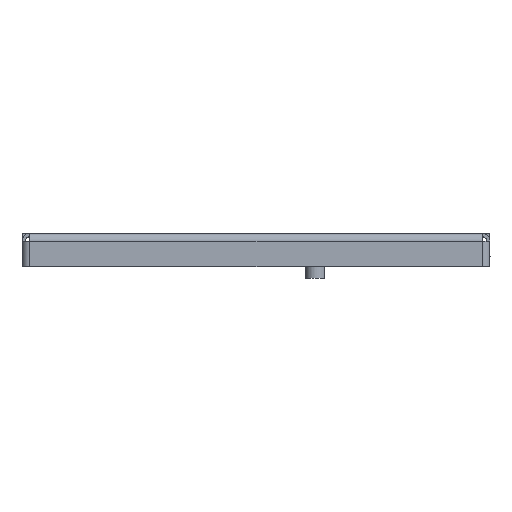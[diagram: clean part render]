
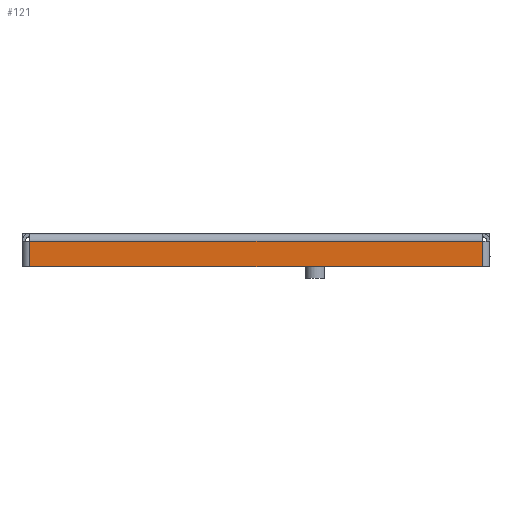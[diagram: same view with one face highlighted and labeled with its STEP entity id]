
A CAD part, left-side view. The second image highlights one B-rep face of the part: STEP entity #121.
In plain terms, the highlighted planar face has unit normal (-1, 0, 0).
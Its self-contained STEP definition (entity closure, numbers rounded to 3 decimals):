
#121=ADVANCED_FACE('',(#793),#795,.F.);
#793=FACE_BOUND('',#794,.T.);
#794=EDGE_LOOP('',(#2938,#2939,#2940,#2941));
#795=PLANE('',#796);
#796=AXIS2_PLACEMENT_3D('',#797,#798,#799);
#797=CARTESIAN_POINT('',(-193.2,0.,0.));
#798=DIRECTION('',(1.,0.,0.));
#799=DIRECTION('',(0.,0.,-1.));
#2938=ORIENTED_EDGE('',*,*,#4119,.F.);
#2939=ORIENTED_EDGE('',*,*,#4121,.F.);
#2940=ORIENTED_EDGE('',*,*,#4122,.F.);
#2941=ORIENTED_EDGE('',*,*,#4123,.F.);
#4119=EDGE_CURVE('',#5033,#5026,#5037,.T.);
#4121=EDGE_CURVE('',#5039,#5033,#5040,.T.);
#4122=EDGE_CURVE('',#5041,#5039,#5042,.T.);
#4123=EDGE_CURVE('',#5026,#5041,#5043,.T.);
#5026=VERTEX_POINT('',#6831);
#5033=VERTEX_POINT('',#6851);
#5037=LINE('',#6862,#6863);
#5039=VERTEX_POINT('',#6868);
#5040=LINE('',#6869,#6870);
#5041=VERTEX_POINT('',#6872);
#5042=LINE('',#6873,#6874);
#5043=LINE('',#6876,#6877);
#6831=CARTESIAN_POINT('',(-193.2,-95.3,-3.2));
#6851=CARTESIAN_POINT('',(-193.2,95.3,-3.2));
#6862=CARTESIAN_POINT('',(-193.2,95.3,-3.2));
#6863=VECTOR('',#6864,1.);
#6864=DIRECTION('',(0.,-1.,0.));
#6868=CARTESIAN_POINT('',(-193.2,95.3,-14.));
#6869=CARTESIAN_POINT('',(-193.2,95.3,-14.));
#6870=VECTOR('',#6871,1.);
#6871=DIRECTION('',(0.,0.,1.));
#6872=CARTESIAN_POINT('',(-193.2,-95.3,-14.));
#6873=CARTESIAN_POINT('',(-193.2,-95.3,-14.));
#6874=VECTOR('',#6875,1.);
#6875=DIRECTION('',(0.,1.,0.));
#6876=CARTESIAN_POINT('',(-193.2,-95.3,-3.2));
#6877=VECTOR('',#6878,1.);
#6878=DIRECTION('',(0.,0.,-1.));
